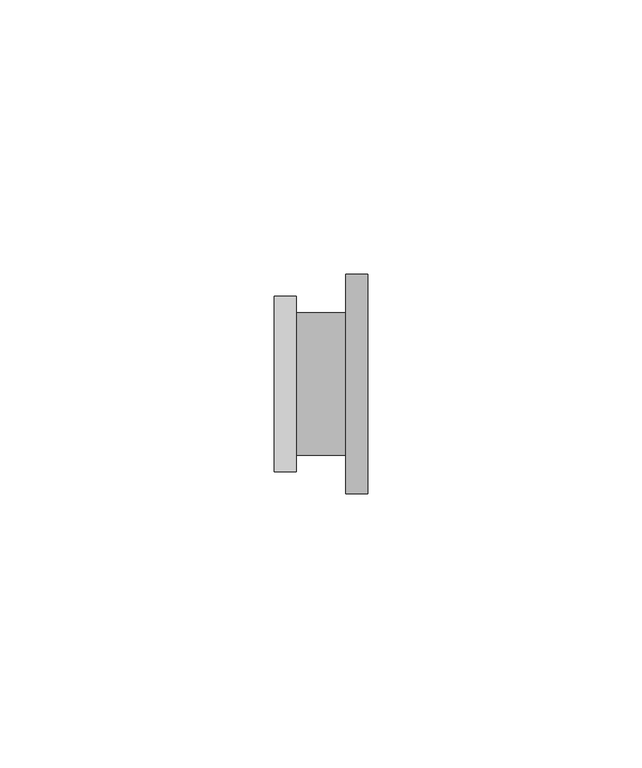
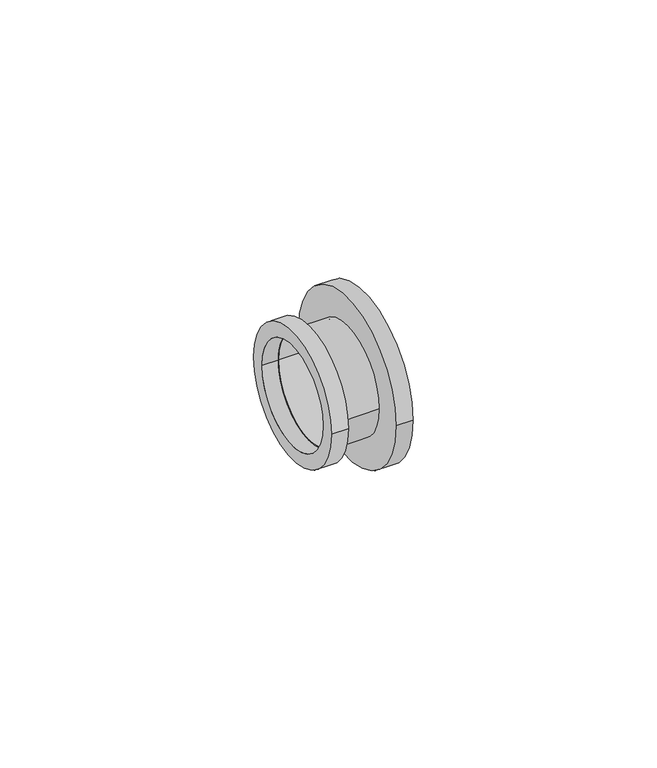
"""IFC4 building model written with IfcOpenShell, lengths in millimetres: pipe fitting geometry, БИР ПЕКС_НПР_Соединитель_Резьба_Внутренняя : Соединитель прямой с внутренней резьбой."""

from ifc_helpers import new_model, si_unit, point, frame, origin, origin_2d, place, context, project, spatial, circle_curve, trimmed, segment, composite_curve, outline, extrude, source, transform, mapped, element, save


def pipe_fitting_481ba129(model_context):
    return source(origin(), model_context, "Body", "SweptSolid", [
        extrude(outline(composite_curve([segment(trimmed(circle_curve(origin_2d(), 13.0), [point((-13.0, 0.0))], [point((13.0, 0.0))], False, "CARTESIAN"), True, "CONTINUOUS"), segment(trimmed(circle_curve(origin_2d(), 13.0), [point((13.0, 0.0))], [point((-13.0, 0.0))], False, "CARTESIAN"), True, "CONTINUOUS")], self_intersect=False), holes=[composite_curve([segment(trimmed(circle_curve(origin_2d(), 12.5), [point((-12.5, 0.0))], [point((12.5, 0.0))], True, "CARTESIAN"), True, "CONTINUOUS"), segment(trimmed(circle_curve(origin_2d(), 12.5), [point((12.5, 0.0))], [point((-12.5, 0.0))], True, "CARTESIAN"), True, "CONTINUOUS")], self_intersect=False)]), frame((-4.5, 0.0, 0.0), z_axis=(1.0, 0.0, 0.0), x_axis=(0.0, 1.0, 0.0)), (0.0, 0.0, 1.0), 9.0),
        extrude(outline(composite_curve([segment(trimmed(circle_curve(origin_2d(), 20.0), [point((-20.0, 0.0))], [point((20.0, 0.0))], False, "CARTESIAN"), True, "CONTINUOUS"), segment(trimmed(circle_curve(origin_2d(), 20.0), [point((20.0, 0.0))], [point((-20.0, 0.0))], False, "CARTESIAN"), True, "CONTINUOUS")], self_intersect=False), holes=[composite_curve([segment(trimmed(circle_curve(origin_2d(), 12.5), [point((-12.5, 0.0))], [point((12.5, 0.0))], True, "CARTESIAN"), True, "CONTINUOUS"), segment(trimmed(circle_curve(origin_2d(), 12.5), [point((12.5, 0.0))], [point((-12.5, 0.0))], True, "CARTESIAN"), True, "CONTINUOUS")], self_intersect=False)]), frame((4.5, 0.0, 0.0), z_axis=(1.0, 0.0, 0.0), x_axis=(0.0, 1.0, 0.0)), (0.0, 0.0, 1.0), 4.0),
        extrude(outline(composite_curve([segment(trimmed(circle_curve(origin_2d(), 16.0), [point((-16.0, 0.0))], [point((16.0, 0.0))], False, "CARTESIAN"), True, "CONTINUOUS"), segment(trimmed(circle_curve(origin_2d(), 16.0), [point((16.0, 0.0))], [point((-16.0, 0.0))], False, "CARTESIAN"), True, "CONTINUOUS")], self_intersect=False), holes=[composite_curve([segment(trimmed(circle_curve(origin_2d(), 12.5), [point((-12.5, 0.0))], [point((12.5, 0.0))], True, "CARTESIAN"), True, "CONTINUOUS"), segment(trimmed(circle_curve(origin_2d(), 12.5), [point((12.5, 0.0))], [point((-12.5, 0.0))], True, "CARTESIAN"), True, "CONTINUOUS")], self_intersect=False)]), frame((-8.5, 0.0, 0.0), z_axis=(1.0, 0.0, 0.0), x_axis=(0.0, 1.0, 0.0)), (0.0, 0.0, 1.0), 4.0),
    ])


if __name__ == "__main__":
    model = new_model("IFC4")
    model_context = context("Model", 3, world=origin())
    ifc_project = project(units=[si_unit("LENGTHUNIT", "METRE", prefix="MILLI")], contexts=[model_context])
    site = spatial("IfcSite", under=ifc_project)
    building = spatial("IfcBuilding", under=site)
    placement = place(None, origin())
    pipe_fitting_shape = pipe_fitting_481ba129(model_context)
    element("IfcPipeFitting", 1, ObjectType="БИР ПЕКС_НПР_Соединитель_Резьба_Внутренняя : Соединитель прямой с внутренней резьбой", at=placement, inside=building, context=model_context, shape_type="MappedRepresentation", body=[
        mapped(pipe_fitting_shape, transform((0.0, 0.0, 0.0), x_axis=(1.0, 0.0, 0.0), y_axis=(0.0, 1.0, 0.0), z_axis=(0.0, 0.0, 1.0))),
    ])
    save(model, "model.ifc")
